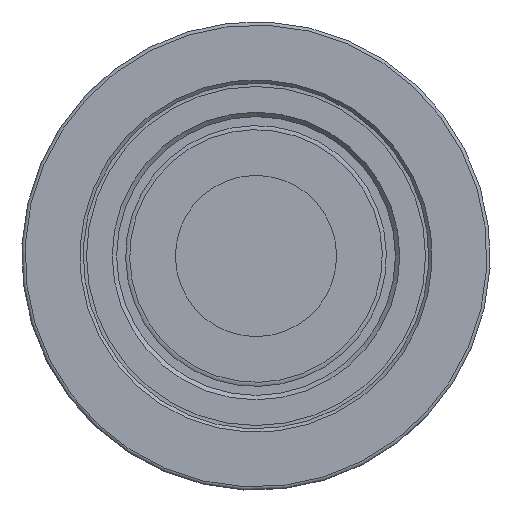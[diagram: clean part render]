
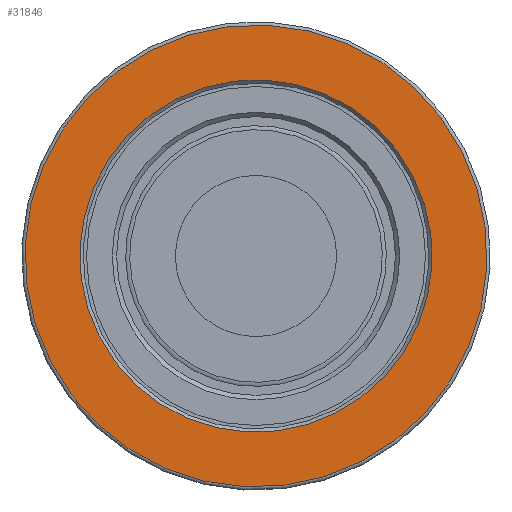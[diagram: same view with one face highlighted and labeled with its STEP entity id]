
A CAD part, front view. The second image highlights one B-rep face of the part: STEP entity #31846.
In plain terms, the highlighted planar face has unit normal (0, -1, 0).
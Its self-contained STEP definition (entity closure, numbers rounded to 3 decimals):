
#2902=FACE_BOUND('',#6189,.T.);
#3196=PLANE('',#33175);
#4473=FACE_OUTER_BOUND('',#6188,.T.);
#6188=EDGE_LOOP('',(#27628));
#6189=EDGE_LOOP('',(#27629));
#7111=CIRCLE('',#33171,13.9);
#7115=CIRCLE('',#33176,10.6);
#15423=VERTEX_POINT('',#61855);
#15426=VERTEX_POINT('',#61863);
#19653=EDGE_CURVE('',#15423,#15423,#7111,.T.);
#19657=EDGE_CURVE('',#15426,#15426,#7115,.T.);
#27628=ORIENTED_EDGE('',*,*,#19653,.F.);
#27629=ORIENTED_EDGE('',*,*,#19657,.F.);
#31846=ADVANCED_FACE('',(#4473,#2902),#3196,.T.);
#33171=AXIS2_PLACEMENT_3D('',#61856,#36341,#36342);
#33175=AXIS2_PLACEMENT_3D('',#61862,#36349,#36350);
#33176=AXIS2_PLACEMENT_3D('',#61864,#36351,#36352);
#36341=DIRECTION('center_axis',(0.,1.,0.));
#36342=DIRECTION('ref_axis',(-0.121,0.,0.993));
#36349=DIRECTION('center_axis',(0.,-1.,0.));
#36350=DIRECTION('ref_axis',(0.993,0.,0.121));
#36351=DIRECTION('center_axis',(0.,-1.,0.));
#36352=DIRECTION('ref_axis',(-0.121,0.,0.993));
#61855=CARTESIAN_POINT('',(-13.798,-20.342,-1.683));
#61856=CARTESIAN_POINT('Origin',(0.,-20.342,
0.));
#61862=CARTESIAN_POINT('Origin',(1.259,-20.342,-10.323));
#61863=CARTESIAN_POINT('',(1.284,-20.342,-10.522));
#61864=CARTESIAN_POINT('Origin',(0.,-20.342,
0.));
